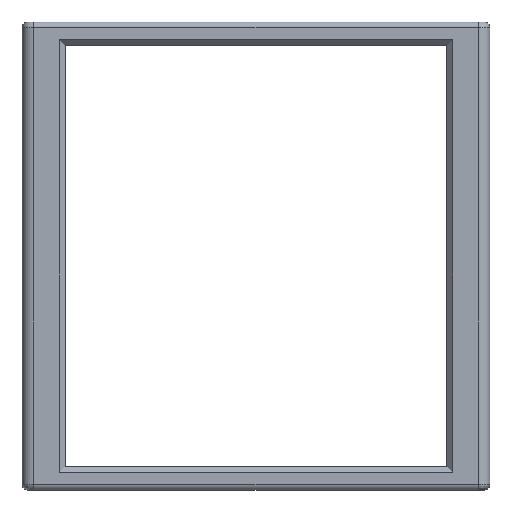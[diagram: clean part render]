
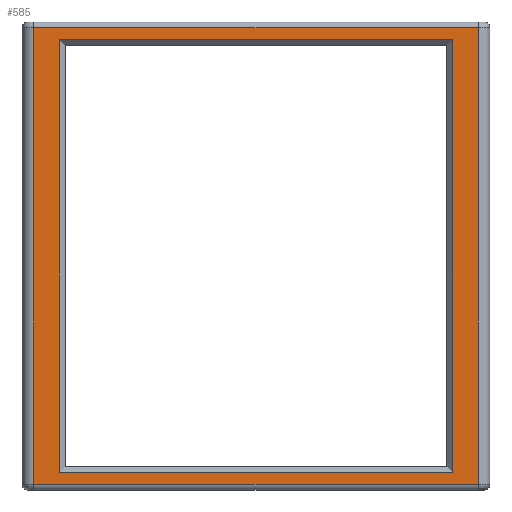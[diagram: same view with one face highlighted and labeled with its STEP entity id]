
A CAD part, top view. The second image highlights one B-rep face of the part: STEP entity #585.
In plain terms, the highlighted planar face has unit normal (0, 0, 1).
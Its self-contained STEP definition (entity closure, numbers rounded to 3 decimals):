
#15=FACE_BOUND('',#100,.T.);
#27=PLANE('',#653);
#60=FACE_OUTER_BOUND('',#99,.T.);
#99=EDGE_LOOP('',(#434,#435,#436,#437));
#100=EDGE_LOOP('',(#438,#439,#440,#441));
#144=LINE('',#908,#196);
#151=LINE('',#938,#203);
#152=LINE('',#942,#204);
#153=LINE('',#943,#205);
#154=LINE('',#946,#206);
#155=LINE('',#948,#207);
#156=LINE('',#950,#208);
#157=LINE('',#951,#209);
#196=VECTOR('',#720,10.);
#203=VECTOR('',#741,10.);
#204=VECTOR('',#746,10.);
#205=VECTOR('',#747,10.);
#206=VECTOR('',#748,10.);
#207=VECTOR('',#749,10.);
#208=VECTOR('',#750,10.);
#209=VECTOR('',#751,10.);
#279=VERTEX_POINT('',#900);
#281=VERTEX_POINT('',#906);
#288=VERTEX_POINT('',#937);
#289=VERTEX_POINT('',#941);
#290=VERTEX_POINT('',#944);
#291=VERTEX_POINT('',#945);
#292=VERTEX_POINT('',#947);
#293=VERTEX_POINT('',#949);
#334=EDGE_CURVE('',#281,#279,#144,.T.);
#345=EDGE_CURVE('',#279,#288,#151,.T.);
#347=EDGE_CURVE('',#289,#281,#152,.T.);
#348=EDGE_CURVE('',#288,#289,#153,.T.);
#349=EDGE_CURVE('',#290,#291,#154,.T.);
#350=EDGE_CURVE('',#292,#290,#155,.T.);
#351=EDGE_CURVE('',#293,#292,#156,.T.);
#352=EDGE_CURVE('',#291,#293,#157,.T.);
#434=ORIENTED_EDGE('',*,*,#334,.F.);
#435=ORIENTED_EDGE('',*,*,#347,.F.);
#436=ORIENTED_EDGE('',*,*,#348,.F.);
#437=ORIENTED_EDGE('',*,*,#345,.F.);
#438=ORIENTED_EDGE('',*,*,#349,.F.);
#439=ORIENTED_EDGE('',*,*,#350,.F.);
#440=ORIENTED_EDGE('',*,*,#351,.F.);
#441=ORIENTED_EDGE('',*,*,#352,.F.);
#585=ADVANCED_FACE('',(#60,#15),#27,.T.);
#653=AXIS2_PLACEMENT_3D('',#940,#744,#745);
#720=DIRECTION('',(1.,0.,0.));
#741=DIRECTION('',(0.,-1.,0.));
#744=DIRECTION('center_axis',(0.,0.,1.));
#745=DIRECTION('ref_axis',(1.,0.,0.));
#746=DIRECTION('',(0.,1.,0.));
#747=DIRECTION('',(-1.,0.,0.));
#748=DIRECTION('',(0.,-1.,0.));
#749=DIRECTION('',(-1.,0.,0.));
#750=DIRECTION('',(0.,1.,0.));
#751=DIRECTION('',(1.,0.,0.));
#900=CARTESIAN_POINT('',(78.,79.,6.));
#906=CARTESIAN_POINT('',(2.,79.,6.));
#908=CARTESIAN_POINT('',(60.,79.,6.));
#937=CARTESIAN_POINT('',(78.,1.,6.));
#938=CARTESIAN_POINT('',(78.,20.,6.));
#940=CARTESIAN_POINT('Origin',(40.,40.,6.));
#941=CARTESIAN_POINT('',(2.,1.,6.));
#942=CARTESIAN_POINT('',(2.,60.,6.));
#943=CARTESIAN_POINT('',(20.,1.,6.));
#944=CARTESIAN_POINT('',(6.35,77.,6.));
#945=CARTESIAN_POINT('',(6.35,3.,6.));
#946=CARTESIAN_POINT('',(6.35,58.,6.));
#947=CARTESIAN_POINT('',(73.65,77.,6.));
#948=CARTESIAN_POINT('',(56.325,77.,6.));
#949=CARTESIAN_POINT('',(73.65,3.,6.));
#950=CARTESIAN_POINT('',(73.65,22.,6.));
#951=CARTESIAN_POINT('',(23.675,3.,6.));
